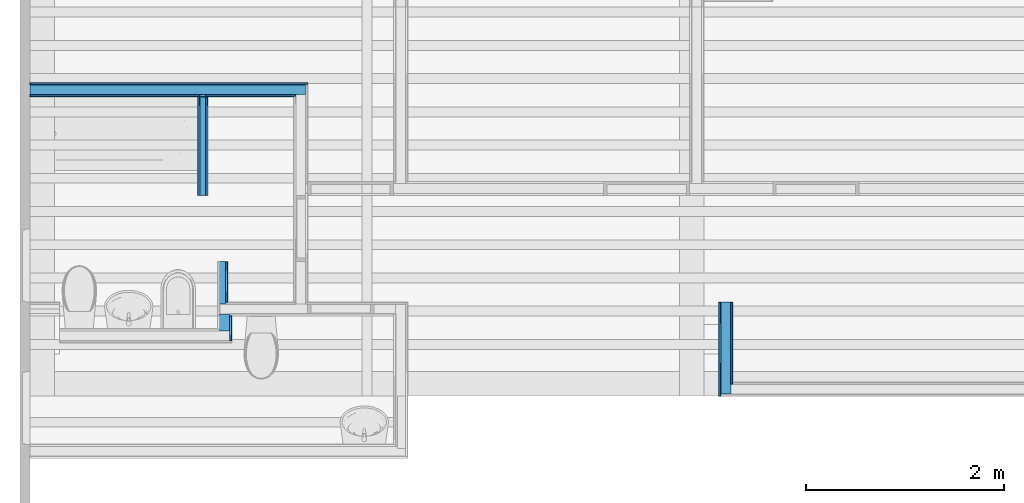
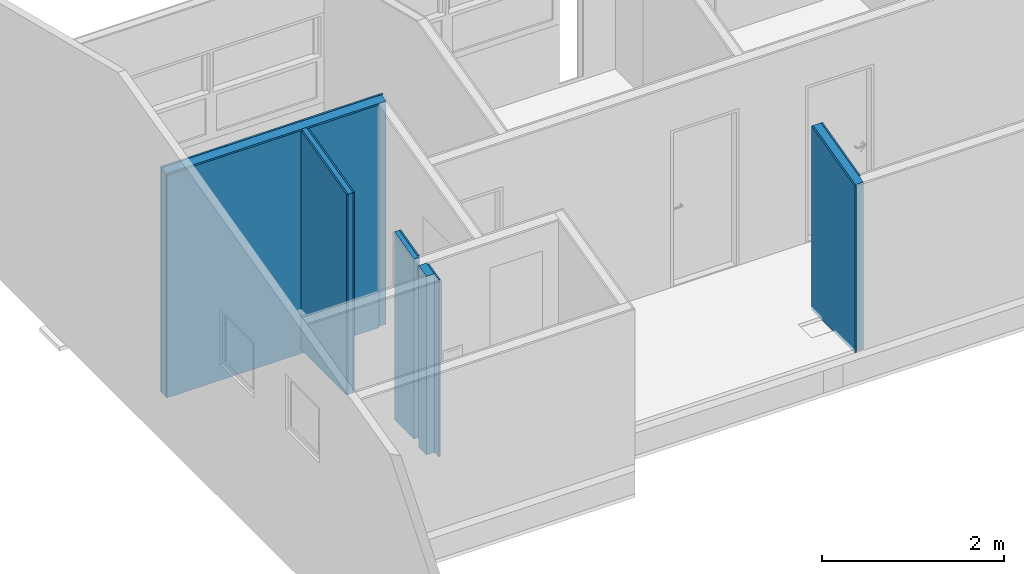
# One storey, part 9 of 13: 13 building element parts, 5 elements without a shape of their own.
"""IFC2X3 building model written with IfcOpenShell, lengths in millimetres."""

from ifc_helpers import new_model, entity, si_unit, converted_unit, derived_unit, money_unit, direction, frame, origin_with_axes, place, context, subcontext, project, spatial, polyline, outline, extrude, boolean, faceted_brep, material, type_object, element, aggregate, save


model = new_model("IFC2X3")

# Units and contexts
model_context = context("Model", 3, precision=0.01, world=origin_with_axes(), true_north=direction((0.293984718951, 0.955810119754)))
body_context = subcontext(model_context, "Body", "Model", "MODEL_VIEW")
ifc_project = project(units=[si_unit("LENGTHUNIT", "METRE", prefix="MILLI"), si_unit("AREAUNIT", "SQUARE_METRE"), si_unit("VOLUMEUNIT", "CUBIC_METRE"), converted_unit("PLANEANGLEUNIT", "DEGREE", entity("IfcPlaneAngleMeasure", 0.0174532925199), si_unit("PLANEANGLEUNIT", "RADIAN"), dimensions=[0, 0, 0, 0, 0, 0, 0]), si_unit("SOLIDANGLEUNIT", "STERADIAN"), money_unit("USD"), converted_unit("TIMEUNIT", "Year", entity("IfcTimeMeasure", 31556926.0), si_unit("TIMEUNIT", "SECOND"), dimensions=[0, 0, 1, 0, 0, 0, 0]), si_unit("MASSUNIT", "GRAM", prefix="KILO"), si_unit("THERMODYNAMICTEMPERATUREUNIT", "DEGREE_CELSIUS"), si_unit("LUMINOUSINTENSITYUNIT", "LUMEN"), si_unit("ENERGYUNIT", "JOULE", prefix="MEGA"), derived_unit("THERMALCONDUCTANCEUNIT", [(si_unit("POWERUNIT", "WATT"), 1), (si_unit("LENGTHUNIT", "METRE"), -1), (si_unit("THERMODYNAMICTEMPERATUREUNIT", "KELVIN"), -1)]), derived_unit("SPECIFICHEATCAPACITYUNIT", [(si_unit("ENERGYUNIT", "JOULE"), 1), (si_unit("MASSUNIT", "GRAM", prefix="KILO"), -1), (si_unit("THERMODYNAMICTEMPERATUREUNIT", "KELVIN"), -1)]), derived_unit("MASSDENSITYUNIT", [(si_unit("MASSUNIT", "GRAM", prefix="KILO"), 1), (si_unit("VOLUMEUNIT", "CUBIC_METRE"), -1)])], contexts=[model_context])

# Site, building, storey
site_placement = place(None, origin_with_axes())
site = spatial("IfcSite", under=ifc_project, at=site_placement, Name="Local", CompositionType="ELEMENT")
building_placement = place(site_placement, origin_with_axes())
building = spatial("IfcBuilding", under=site, at=building_placement, Name="Construção", CompositionType="ELEMENT")
storey_placement = place(building_placement, frame((0.0, 0.0, 3050.0), z_axis=(0.0, 0.0, 1.0), x_axis=(1.0, 0.0, 0.0)))
storey = spatial("IfcBuildingStorey", under=building, at=storey_placement, Name="Primeiro Pavimento", CompositionType="ELEMENT", Elevation=3050.0)

# Wall, building element parts
wall_type_1 = type_object("IfcWallType", Name="Alvenaria Tijolo Maciço com Revestimento 14cm 140", PredefinedType="NOTDEFINED")
wall_1_placement = place(storey_placement, frame((7009.64507267, 9950.63219788, 0.0), z_axis=(0.0, 0.0, 1.0), x_axis=(1.0, 0.0, 0.0)))
wall_1 = element("IfcWall", 1, at=wall_1_placement, inside=storey, type_object=wall_type_1, Name="Parede")
ifc_material_1 = material(Name="Reboco (1)")
building_element_part_1_placement = place(wall_1_placement, origin_with_axes())
building_element_part_1 = element("IfcBuildingElementPart", 2, at=building_element_part_1_placement, material=ifc_material_1, Name="Reboco (1)", context=body_context, shape_type="CSG", body=[
    boolean("DIFFERENCE", boolean("DIFFERENCE", boolean("DIFFERENCE", extrude(outline(polyline([(-100.0, -70.0), (2810.00000001, -70.0), (2810.00000001, -50.0), (-100.0, -50.0), (-100.0, -70.0)])), origin_with_axes(), (0.0, 0.0, 1.0), 3211.87314734), faceted_brep([(-1.89962445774e-06, -50.0, 2990.80041473), (0.0, -50.0, 0.0), (-100.0, -50.0, 0.0), (-100.0, -50.0, 3211.87314734), (2810.00000001, -50.0, 3211.87314734), (2810.00000001, -50.0, 0.0), (2690.00000001, -50.0, 0.0), (2690.00000001, -50.0, 2990.80041473), (1780.0, -49.9999999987, 2990.80041473), (1780.0, -50.0, 50.0), (1720.0, -50.0, 50.0), (1720.0, -49.9999999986, 2990.80041473), (0.0, -70.0, 0.0), (-1.89441262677e-06, -70.0, 2985.81385467), (-100.0, -70.0, 0.0), (-100.0, -70.0, 3211.87314734), (2810.00000001, -70.0, 3211.87314734), (2810.00000001, -70.0, 0.0), (2690.00000001, -70.0, 0.0), (2690.00000001, -70.0, 2985.81385467), (1780.0, -69.9999999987, 2985.81385467), (1780.0, -70.0, 50.0), (1720.0, -70.0, 50.0), (1720.0, -69.9999999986, 2985.81385467)], [[[0, 1, 2, 3, 4, 5, 6, 7, 8, 9, 10, 11]], [[12, 1, 0, 13]], [[1, 12, 14, 2]], [[3, 2, 14, 15]], [[3, 15, 16, 4]], [[16, 17, 5, 4]], [[18, 6, 5, 17]], [[7, 6, 18, 19]], [[19, 20, 8, 7]], [[9, 8, 20, 21]], [[10, 9, 21, 22]], [[11, 10, 22, 23]], [[23, 13, 0, 11]], [[19, 18, 17, 16, 15, 14, 12, 13, 23, 22, 21, 20]]])), faceted_brep([(-1.92568450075e-06, 50.0, 3015.73321501), (0.0, 50.0, 0.0), (-100.0, 50.0, 0.0), (-100.0, 50.0, 3211.87314734), (2810.00000001, 50.0, 3211.87314734), (2810.00000001, 50.0, 0.0), (2790.00000001, 50.0, 0.0), (2790.00000001, 50.0, 3015.73321501), (0.0, -50.0, 0.0), (-1.89962445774e-06, -50.0, 2990.80041473), (-100.0, -50.0, 0.0), (-100.0, -50.0, 3211.87314734), (2810.00000001, -50.0, 3211.87314734), (2810.00000001, -50.0, 0.0), (2790.00000001, -50.0, 0.0), (2790.00000001, -50.0, 2990.80041473)], [[[0, 1, 2, 3, 4, 5, 6, 7]], [[8, 1, 0, 9]], [[1, 8, 10, 2]], [[3, 2, 10, 11]], [[3, 11, 12, 4]], [[12, 13, 5, 4]], [[14, 6, 5, 13]], [[7, 6, 14, 15]], [[15, 9, 0, 7]], [[15, 14, 13, 12, 11, 10, 8, 9]]])), faceted_brep([(2810.00000001, 50.0, 3015.73321501), (2810.00000001, 70.0, 3020.71977507), (2810.00000001, 70.0, 3211.87314734), (2810.00000001, 50.0, 3211.87314734), (-1.93089633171e-06, 70.0, 3020.71977507), (-1.92568450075e-06, 50.0, 3015.73321501), (0.0, 70.0, 0.0), (-100.0, 70.0, 0.0), (-100.0, 70.0, 3211.87314734), (-100.0, 50.0, 3211.87314734), (-100.0, 50.0, 0.0), (0.0, 50.0, 0.0)], [[[0, 1, 2, 3]], [[4, 1, 0, 5]], [[4, 6, 7, 8, 2, 1]], [[8, 9, 3, 2]], [[0, 3, 9, 10, 11, 5]], [[6, 4, 5, 11]], [[6, 11, 10, 7]], [[8, 7, 10, 9]]])),
])
ifc_material_2 = material(Name="Tijolo - Estrutural (1)")
building_element_part_2_placement = place(wall_1_placement, origin_with_axes())
building_element_part_2 = element("IfcBuildingElementPart", 3, at=building_element_part_2_placement, material=ifc_material_2, Name="Tijolo - Estrutural (1)", context=body_context, shape_type="CSG", body=[
    boolean("DIFFERENCE", boolean("DIFFERENCE", boolean("DIFFERENCE", extrude(outline(polyline([(-100.0, -50.0), (2810.00000001, -50.0), (2810.00000001, 50.0), (-100.0, 50.0), (-100.0, -50.0)])), origin_with_axes(), (0.0, 0.0, 1.0), 3211.87314734), faceted_brep([(-1.89962445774e-06, -50.0, 2990.80041473), (0.0, -50.0, 0.0), (-100.0, -50.0, 0.0), (-100.0, -50.0, 3211.87314734), (2810.00000001, -50.0, 3211.87314734), (2810.00000001, -50.0, 0.0), (2690.00000001, -50.0, 0.0), (2690.00000001, -50.0, 2990.80041473), (1780.0, -49.9999999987, 2990.80041473), (1780.0, -50.0, 50.0), (1720.0, -50.0, 50.0), (1720.0, -49.9999999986, 2990.80041473), (0.0, -70.0, 0.0), (-1.89441262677e-06, -70.0, 2985.81385467), (-100.0, -70.0, 0.0), (-100.0, -70.0, 3211.87314734), (2810.00000001, -70.0, 3211.87314734), (2810.00000001, -70.0, 0.0), (2690.00000001, -70.0, 0.0), (2690.00000001, -70.0, 2985.81385467), (1780.0, -69.9999999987, 2985.81385467), (1780.0, -70.0, 50.0), (1720.0, -70.0, 50.0), (1720.0, -69.9999999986, 2985.81385467)], [[[0, 1, 2, 3, 4, 5, 6, 7, 8, 9, 10, 11]], [[12, 1, 0, 13]], [[1, 12, 14, 2]], [[3, 2, 14, 15]], [[3, 15, 16, 4]], [[16, 17, 5, 4]], [[18, 6, 5, 17]], [[7, 6, 18, 19]], [[19, 20, 8, 7]], [[9, 8, 20, 21]], [[10, 9, 21, 22]], [[11, 10, 22, 23]], [[23, 13, 0, 11]], [[19, 18, 17, 16, 15, 14, 12, 13, 23, 22, 21, 20]]])), faceted_brep([(-1.92568450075e-06, 50.0, 3015.73321501), (0.0, 50.0, 0.0), (-100.0, 50.0, 0.0), (-100.0, 50.0, 3211.87314734), (2810.00000001, 50.0, 3211.87314734), (2810.00000001, 50.0, 0.0), (2790.00000001, 50.0, 0.0), (2790.00000001, 50.0, 3015.73321501), (0.0, -50.0, 0.0), (-1.89962445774e-06, -50.0, 2990.80041473), (-100.0, -50.0, 0.0), (-100.0, -50.0, 3211.87314734), (2810.00000001, -50.0, 3211.87314734), (2810.00000001, -50.0, 0.0), (2790.00000001, -50.0, 0.0), (2790.00000001, -50.0, 2990.80041473)], [[[0, 1, 2, 3, 4, 5, 6, 7]], [[8, 1, 0, 9]], [[1, 8, 10, 2]], [[3, 2, 10, 11]], [[3, 11, 12, 4]], [[12, 13, 5, 4]], [[14, 6, 5, 13]], [[7, 6, 14, 15]], [[15, 9, 0, 7]], [[15, 14, 13, 12, 11, 10, 8, 9]]])), faceted_brep([(2810.00000001, 50.0, 3015.73321501), (2810.00000001, 70.0, 3020.71977507), (2810.00000001, 70.0, 3211.87314734), (2810.00000001, 50.0, 3211.87314734), (-1.93089633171e-06, 70.0, 3020.71977507), (-1.92568450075e-06, 50.0, 3015.73321501), (0.0, 70.0, 0.0), (-100.0, 70.0, 0.0), (-100.0, 70.0, 3211.87314734), (-100.0, 50.0, 3211.87314734), (-100.0, 50.0, 0.0), (0.0, 50.0, 0.0)], [[[0, 1, 2, 3]], [[4, 1, 0, 5]], [[4, 6, 7, 8, 2, 1]], [[8, 9, 3, 2]], [[0, 3, 9, 10, 11, 5]], [[6, 4, 5, 11]], [[6, 11, 10, 7]], [[8, 7, 10, 9]]])),
])
building_element_part_3_placement = place(wall_1_placement, origin_with_axes())
building_element_part_3 = element("IfcBuildingElementPart", 4, at=building_element_part_3_placement, material=ifc_material_1, Name="Reboco (1)", context=body_context, shape_type="CSG", body=[
    boolean("DIFFERENCE", boolean("DIFFERENCE", boolean("DIFFERENCE", extrude(outline(polyline([(-100.0, 50.0), (2810.00000001, 50.0), (2810.00000001, 70.0), (-100.0, 70.0), (-100.0, 50.0)])), origin_with_axes(), (0.0, 0.0, 1.0), 3211.87314734), faceted_brep([(-1.89962445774e-06, -50.0, 2990.80041473), (0.0, -50.0, 0.0), (-100.0, -50.0, 0.0), (-100.0, -50.0, 3211.87314734), (2810.00000001, -50.0, 3211.87314734), (2810.00000001, -50.0, 0.0), (2690.00000001, -50.0, 0.0), (2690.00000001, -50.0, 2990.80041473), (1780.0, -49.9999999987, 2990.80041473), (1780.0, -50.0, 50.0), (1720.0, -50.0, 50.0), (1720.0, -49.9999999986, 2990.80041473), (0.0, -70.0, 0.0), (-1.89441262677e-06, -70.0, 2985.81385467), (-100.0, -70.0, 0.0), (-100.0, -70.0, 3211.87314734), (2810.00000001, -70.0, 3211.87314734), (2810.00000001, -70.0, 0.0), (2690.00000001, -70.0, 0.0), (2690.00000001, -70.0, 2985.81385467), (1780.0, -69.9999999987, 2985.81385467), (1780.0, -70.0, 50.0), (1720.0, -70.0, 50.0), (1720.0, -69.9999999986, 2985.81385467)], [[[0, 1, 2, 3, 4, 5, 6, 7, 8, 9, 10, 11]], [[12, 1, 0, 13]], [[1, 12, 14, 2]], [[3, 2, 14, 15]], [[3, 15, 16, 4]], [[16, 17, 5, 4]], [[18, 6, 5, 17]], [[7, 6, 18, 19]], [[19, 20, 8, 7]], [[9, 8, 20, 21]], [[10, 9, 21, 22]], [[11, 10, 22, 23]], [[23, 13, 0, 11]], [[19, 18, 17, 16, 15, 14, 12, 13, 23, 22, 21, 20]]])), faceted_brep([(-1.92568450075e-06, 50.0, 3015.73321501), (0.0, 50.0, 0.0), (-100.0, 50.0, 0.0), (-100.0, 50.0, 3211.87314734), (2810.00000001, 50.0, 3211.87314734), (2810.00000001, 50.0, 0.0), (2790.00000001, 50.0, 0.0), (2790.00000001, 50.0, 3015.73321501), (0.0, -50.0, 0.0), (-1.89962445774e-06, -50.0, 2990.80041473), (-100.0, -50.0, 0.0), (-100.0, -50.0, 3211.87314734), (2810.00000001, -50.0, 3211.87314734), (2810.00000001, -50.0, 0.0), (2790.00000001, -50.0, 0.0), (2790.00000001, -50.0, 2990.80041473)], [[[0, 1, 2, 3, 4, 5, 6, 7]], [[8, 1, 0, 9]], [[1, 8, 10, 2]], [[3, 2, 10, 11]], [[3, 11, 12, 4]], [[12, 13, 5, 4]], [[14, 6, 5, 13]], [[7, 6, 14, 15]], [[15, 9, 0, 7]], [[15, 14, 13, 12, 11, 10, 8, 9]]])), faceted_brep([(2810.00000001, 50.0, 3015.73321501), (2810.00000001, 70.0, 3020.71977507), (2810.00000001, 70.0, 3211.87314734), (2810.00000001, 50.0, 3211.87314734), (-1.93089633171e-06, 70.0, 3020.71977507), (-1.92568450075e-06, 50.0, 3015.73321501), (0.0, 70.0, 0.0), (-100.0, 70.0, 0.0), (-100.0, 70.0, 3211.87314734), (-100.0, 50.0, 3211.87314734), (-100.0, 50.0, 0.0), (0.0, 50.0, 0.0)], [[[0, 1, 2, 3]], [[4, 1, 0, 5]], [[4, 6, 7, 8, 2, 1]], [[8, 9, 3, 2]], [[0, 3, 9, 10, 11, 5]], [[6, 4, 5, 11]], [[6, 11, 10, 7]], [[8, 7, 10, 9]]])),
])
aggregate(wall_1, [building_element_part_1, building_element_part_2, building_element_part_3])

wall_2_placement = place(storey_placement, frame((14049.6450727, 7800.63219788, 0.0), z_axis=(0.0, 0.0, 1.0), x_axis=(0.0, -1.0, 0.0)))
wall_2 = element("IfcWall", 5, at=wall_2_placement, inside=storey, type_object=wall_type_1, Name="Parede")
building_element_part_4_placement = place(wall_2_placement, origin_with_axes())
building_element_part_4 = element("IfcBuildingElementPart", 6, at=building_element_part_4_placement, material=ifc_material_1, Name="Reboco (1)", context=body_context, shape_type="CSG", body=[
    boolean("DIFFERENCE", boolean("DIFFERENCE", boolean("DIFFERENCE", extrude(outline(polyline([(0.0, -70.0), (950.0, -70.0), (950.0, -50.0), (0.0, -50.0), (0.0, -70.0)])), origin_with_axes(), (0.0, 0.0, 1.0), 3211.87314734), faceted_brep([(950.0, -50.0, 2230.35000606), (0.0, -50.0, 2467.21160876), (0.0, -50.0, 3211.87314734), (950.0, -50.0, 3211.87314734), (0.0, -70.0, 2467.21160876), (950.0, -70.0, 2230.35000606), (0.0, -70.0, 3211.87314734), (950.0, -70.0, 3211.87314734)], [[[0, 1, 2, 3]], [[4, 1, 0, 5]], [[1, 4, 6, 2]], [[2, 6, 7, 3]], [[5, 0, 3, 7]], [[4, 5, 7, 6]]])), faceted_brep([(930.0, 50.0, 2235.33656611), (0.0, 50.0, 2467.21160876), (0.0, 50.0, 3211.87314734), (950.0, 50.0, 3211.87314734), (950.0, 50.0, 0.0), (930.0, 50.0, 0.0), (0.0, -50.0, 2467.21160876), (930.0, -50.0, 2235.33656611), (0.0, -50.0, 3211.87314734), (950.0, -50.0, 3211.87314734), (950.0, -50.0, 0.0), (930.0, -50.0, 0.0)], [[[0, 1, 2, 3, 4, 5]], [[6, 1, 0, 7]], [[1, 6, 8, 2]], [[2, 8, 9, 3]], [[9, 10, 4, 3]], [[11, 5, 4, 10]], [[0, 5, 11, 7]], [[7, 11, 10, 9, 8, 6]]])), faceted_brep([(830.0, 70.0, 0.0), (830.0, 70.0, 2260.2693664), (0.0, 70.0, 2467.21160876), (0.0, 70.0, 3211.87314734), (950.0, 70.0, 3211.87314734), (950.0, 70.0, 0.0), (830.0, 50.0, 0.0), (830.0, 50.0, 2260.2693664), (0.0, 50.0, 2467.21160876), (0.0, 50.0, 3211.87314734), (950.0, 50.0, 3211.87314734), (950.0, 50.0, 0.0)], [[[0, 1, 2, 3, 4, 5]], [[1, 0, 6, 7]], [[8, 2, 1, 7]], [[2, 8, 9, 3]], [[3, 9, 10, 4]], [[10, 11, 5, 4]], [[6, 0, 5, 11]], [[7, 6, 11, 10, 9, 8]]])),
])
building_element_part_5_placement = place(wall_2_placement, origin_with_axes())
building_element_part_5 = element("IfcBuildingElementPart", 7, at=building_element_part_5_placement, material=ifc_material_2, Name="Tijolo - Estrutural (1)", context=body_context, shape_type="CSG", body=[
    boolean("DIFFERENCE", boolean("DIFFERENCE", boolean("DIFFERENCE", extrude(outline(polyline([(0.0, -50.0), (950.0, -50.0), (950.0, 50.0), (0.0, 50.0), (0.0, -50.0)])), origin_with_axes(), (0.0, 0.0, 1.0), 3211.87314734), faceted_brep([(950.0, -50.0, 2230.35000606), (0.0, -50.0, 2467.21160876), (0.0, -50.0, 3211.87314734), (950.0, -50.0, 3211.87314734), (0.0, -70.0, 2467.21160876), (950.0, -70.0, 2230.35000606), (0.0, -70.0, 3211.87314734), (950.0, -70.0, 3211.87314734)], [[[0, 1, 2, 3]], [[4, 1, 0, 5]], [[1, 4, 6, 2]], [[2, 6, 7, 3]], [[5, 0, 3, 7]], [[4, 5, 7, 6]]])), faceted_brep([(930.0, 50.0, 2235.33656611), (0.0, 50.0, 2467.21160876), (0.0, 50.0, 3211.87314734), (950.0, 50.0, 3211.87314734), (950.0, 50.0, 0.0), (930.0, 50.0, 0.0), (0.0, -50.0, 2467.21160876), (930.0, -50.0, 2235.33656611), (0.0, -50.0, 3211.87314734), (950.0, -50.0, 3211.87314734), (950.0, -50.0, 0.0), (930.0, -50.0, 0.0)], [[[0, 1, 2, 3, 4, 5]], [[6, 1, 0, 7]], [[1, 6, 8, 2]], [[2, 8, 9, 3]], [[9, 10, 4, 3]], [[11, 5, 4, 10]], [[0, 5, 11, 7]], [[7, 11, 10, 9, 8, 6]]])), faceted_brep([(830.0, 70.0, 0.0), (830.0, 70.0, 2260.2693664), (0.0, 70.0, 2467.21160876), (0.0, 70.0, 3211.87314734), (950.0, 70.0, 3211.87314734), (950.0, 70.0, 0.0), (830.0, 50.0, 0.0), (830.0, 50.0, 2260.2693664), (0.0, 50.0, 2467.21160876), (0.0, 50.0, 3211.87314734), (950.0, 50.0, 3211.87314734), (950.0, 50.0, 0.0)], [[[0, 1, 2, 3, 4, 5]], [[1, 0, 6, 7]], [[8, 2, 1, 7]], [[2, 8, 9, 3]], [[3, 9, 10, 4]], [[10, 11, 5, 4]], [[6, 0, 5, 11]], [[7, 6, 11, 10, 9, 8]]])),
])
building_element_part_6_placement = place(wall_2_placement, origin_with_axes())
building_element_part_6 = element("IfcBuildingElementPart", 8, at=building_element_part_6_placement, material=ifc_material_1, Name="Reboco (1)", context=body_context, shape_type="CSG", body=[
    boolean("DIFFERENCE", boolean("DIFFERENCE", boolean("DIFFERENCE", extrude(outline(polyline([(0.0, 50.0), (950.0, 50.0), (950.0, 70.0), (0.0, 70.0), (0.0, 50.0)])), origin_with_axes(), (0.0, 0.0, 1.0), 3211.87314734), faceted_brep([(950.0, -50.0, 2230.35000606), (0.0, -50.0, 2467.21160876), (0.0, -50.0, 3211.87314734), (950.0, -50.0, 3211.87314734), (0.0, -70.0, 2467.21160876), (950.0, -70.0, 2230.35000606), (0.0, -70.0, 3211.87314734), (950.0, -70.0, 3211.87314734)], [[[0, 1, 2, 3]], [[4, 1, 0, 5]], [[1, 4, 6, 2]], [[2, 6, 7, 3]], [[5, 0, 3, 7]], [[4, 5, 7, 6]]])), faceted_brep([(930.0, 50.0, 2235.33656611), (0.0, 50.0, 2467.21160876), (0.0, 50.0, 3211.87314734), (950.0, 50.0, 3211.87314734), (950.0, 50.0, 0.0), (930.0, 50.0, 0.0), (0.0, -50.0, 2467.21160876), (930.0, -50.0, 2235.33656611), (0.0, -50.0, 3211.87314734), (950.0, -50.0, 3211.87314734), (950.0, -50.0, 0.0), (930.0, -50.0, 0.0)], [[[0, 1, 2, 3, 4, 5]], [[6, 1, 0, 7]], [[1, 6, 8, 2]], [[2, 8, 9, 3]], [[9, 10, 4, 3]], [[11, 5, 4, 10]], [[0, 5, 11, 7]], [[7, 11, 10, 9, 8, 6]]])), faceted_brep([(830.0, 70.0, 0.0), (830.0, 70.0, 2260.2693664), (0.0, 70.0, 2467.21160876), (0.0, 70.0, 3211.87314734), (950.0, 70.0, 3211.87314734), (950.0, 70.0, 0.0), (830.0, 50.0, 0.0), (830.0, 50.0, 2260.2693664), (0.0, 50.0, 2467.21160876), (0.0, 50.0, 3211.87314734), (950.0, 50.0, 3211.87314734), (950.0, 50.0, 0.0)], [[[0, 1, 2, 3, 4, 5]], [[1, 0, 6, 7]], [[8, 2, 1, 7]], [[2, 8, 9, 3]], [[3, 9, 10, 4]], [[10, 11, 5, 4]], [[6, 0, 5, 11]], [[7, 6, 11, 10, 9, 8]]])),
])
aggregate(wall_2, [building_element_part_4, building_element_part_5, building_element_part_6])

wall_type_2 = type_object("IfcWallType", Name="Alvenaria Tijolo Maciço com Revestimento 10cm 100", PredefinedType="NOTDEFINED")
wall_3_placement = place(storey_placement, frame((8709.64507267, 9950.63219788, 50.0), z_axis=(0.0, 0.0, 1.0), x_axis=(0.0, -1.0, 0.0)))
wall_3 = element("IfcWall", 9, at=wall_3_placement, inside=storey, type_object=wall_type_2, Name="Parede")
building_element_part_7_placement = place(wall_3_placement, origin_with_axes())
building_element_part_7 = element("IfcBuildingElementPart", 10, at=building_element_part_7_placement, material=ifc_material_1, Name="Reboco (1)", context=body_context, shape_type="CSG", body=[
    boolean("DIFFERENCE", boolean("DIFFERENCE", boolean("DIFFERENCE", extrude(outline(polyline([(-70.0, 80.0), (1070.0, 80.0), (1070.0, 100.0), (-70.0, 100.0), (-70.0, 80.0)])), origin_with_axes(), (0.0, 0.0, 1.0), 4250.0), faceted_brep([(70.0, 99.9999977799, 2935.81385467), (70.0, 100.0, 0.0), (-70.0, 100.0, 0.0), (-70.0, 100.0, 4250.0), (1070.0, 100.0, 4250.0), (1070.0, 100.0, 2686.48585183), (70.0, 80.0, 2935.81385467), (70.0, 80.0, 0.0), (-70.0, 80.0, 0.0), (-70.0, 80.0, 4250.0), (1070.0, 80.0, 4250.0), (1070.0, 80.0, 2686.48585183)], [[[0, 1, 2, 3, 4, 5]], [[1, 0, 6, 7]], [[1, 7, 8, 2]], [[3, 2, 8, 9]], [[3, 9, 10, 4]], [[11, 5, 4, 10]], [[0, 5, 11, 6]], [[6, 11, 10, 9, 8, 7]]])), faceted_brep([(1070.0, 80.0, 2686.48585183), (50.0, 80.0, 2940.80041473), (50.0, 80.0, 0.0), (-70.0, 80.0, 0.0), (-70.0, 80.0, 4250.0), (1070.0, 80.0, 4250.0), (1070.0, 20.0, 2686.48585183), (50.0, 20.0, 2940.80041473), (50.0, 20.0, 0.0), (-70.0, 20.0, 0.0), (-70.0, 20.0, 4250.0), (1070.0, 20.0, 4250.0)], [[[0, 1, 2, 3, 4, 5]], [[1, 0, 6, 7]], [[2, 1, 7, 8]], [[2, 8, 9, 3]], [[4, 3, 9, 10]], [[4, 10, 11, 5]], [[6, 0, 5, 11]], [[7, 6, 11, 10, 9, 8]]])), faceted_brep([(70.0, 20.0, 2935.81385467), (70.0, 20.0, 0.0), (-70.0, 20.0, 0.0), (-70.0, 20.0, 4250.0), (1070.0, 20.0, 4250.0), (1070.0, 20.0, 2686.48585183), (70.0, 0.0, 2935.81385467), (70.0, 0.0, 0.0), (-70.0, 0.0, 0.0), (-70.0, 0.0, 4250.0), (1070.0, 0.0, 4250.0), (1070.0, 0.0, 2686.48585183)], [[[0, 1, 2, 3, 4, 5]], [[1, 0, 6, 7]], [[1, 7, 8, 2]], [[3, 2, 8, 9]], [[3, 9, 10, 4]], [[11, 5, 4, 10]], [[5, 11, 6, 0]], [[6, 11, 10, 9, 8, 7]]])),
])
building_element_part_8_placement = place(wall_3_placement, origin_with_axes())
building_element_part_8 = element("IfcBuildingElementPart", 11, at=building_element_part_8_placement, material=ifc_material_2, Name="Tijolo - Estrutural (1)", context=body_context, shape_type="CSG", body=[
    boolean("DIFFERENCE", boolean("DIFFERENCE", boolean("DIFFERENCE", extrude(outline(polyline([(-70.0, 20.0), (1070.0, 20.0), (1070.0, 80.0), (-70.0, 80.0), (-70.0, 20.0)])), origin_with_axes(), (0.0, 0.0, 1.0), 4250.0), faceted_brep([(70.0, 99.9999977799, 2935.81385467), (70.0, 100.0, 0.0), (-70.0, 100.0, 0.0), (-70.0, 100.0, 4250.0), (1070.0, 100.0, 4250.0), (1070.0, 100.0, 2686.48585183), (70.0, 80.0, 2935.81385467), (70.0, 80.0, 0.0), (-70.0, 80.0, 0.0), (-70.0, 80.0, 4250.0), (1070.0, 80.0, 4250.0), (1070.0, 80.0, 2686.48585183)], [[[0, 1, 2, 3, 4, 5]], [[1, 0, 6, 7]], [[1, 7, 8, 2]], [[3, 2, 8, 9]], [[3, 9, 10, 4]], [[11, 5, 4, 10]], [[0, 5, 11, 6]], [[6, 11, 10, 9, 8, 7]]])), faceted_brep([(1070.0, 80.0, 2686.48585183), (50.0, 80.0, 2940.80041473), (50.0, 80.0, 0.0), (-70.0, 80.0, 0.0), (-70.0, 80.0, 4250.0), (1070.0, 80.0, 4250.0), (1070.0, 20.0, 2686.48585183), (50.0, 20.0, 2940.80041473), (50.0, 20.0, 0.0), (-70.0, 20.0, 0.0), (-70.0, 20.0, 4250.0), (1070.0, 20.0, 4250.0)], [[[0, 1, 2, 3, 4, 5]], [[1, 0, 6, 7]], [[2, 1, 7, 8]], [[2, 8, 9, 3]], [[4, 3, 9, 10]], [[4, 10, 11, 5]], [[6, 0, 5, 11]], [[7, 6, 11, 10, 9, 8]]])), faceted_brep([(70.0, 20.0, 2935.81385467), (70.0, 20.0, 0.0), (-70.0, 20.0, 0.0), (-70.0, 20.0, 4250.0), (1070.0, 20.0, 4250.0), (1070.0, 20.0, 2686.48585183), (70.0, 0.0, 2935.81385467), (70.0, 0.0, 0.0), (-70.0, 0.0, 0.0), (-70.0, 0.0, 4250.0), (1070.0, 0.0, 4250.0), (1070.0, 0.0, 2686.48585183)], [[[0, 1, 2, 3, 4, 5]], [[1, 0, 6, 7]], [[1, 7, 8, 2]], [[3, 2, 8, 9]], [[3, 9, 10, 4]], [[11, 5, 4, 10]], [[5, 11, 6, 0]], [[6, 11, 10, 9, 8, 7]]])),
])
building_element_part_9_placement = place(wall_3_placement, origin_with_axes())
building_element_part_9 = element("IfcBuildingElementPart", 12, at=building_element_part_9_placement, material=ifc_material_1, Name="Reboco (1)", context=body_context, shape_type="CSG", body=[
    boolean("DIFFERENCE", boolean("DIFFERENCE", boolean("DIFFERENCE", extrude(outline(polyline([(-70.0, 0.0), (1070.0, 0.0), (1070.0, 20.0), (-70.0, 20.0), (-70.0, 0.0)])), origin_with_axes(), (0.0, 0.0, 1.0), 4250.0), faceted_brep([(70.0, 99.9999977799, 2935.81385467), (70.0, 100.0, 0.0), (-70.0, 100.0, 0.0), (-70.0, 100.0, 4250.0), (1070.0, 100.0, 4250.0), (1070.0, 100.0, 2686.48585183), (70.0, 80.0, 2935.81385467), (70.0, 80.0, 0.0), (-70.0, 80.0, 0.0), (-70.0, 80.0, 4250.0), (1070.0, 80.0, 4250.0), (1070.0, 80.0, 2686.48585183)], [[[0, 1, 2, 3, 4, 5]], [[1, 0, 6, 7]], [[1, 7, 8, 2]], [[3, 2, 8, 9]], [[3, 9, 10, 4]], [[11, 5, 4, 10]], [[0, 5, 11, 6]], [[6, 11, 10, 9, 8, 7]]])), faceted_brep([(1070.0, 80.0, 2686.48585183), (50.0, 80.0, 2940.80041473), (50.0, 80.0, 0.0), (-70.0, 80.0, 0.0), (-70.0, 80.0, 4250.0), (1070.0, 80.0, 4250.0), (1070.0, 20.0, 2686.48585183), (50.0, 20.0, 2940.80041473), (50.0, 20.0, 0.0), (-70.0, 20.0, 0.0), (-70.0, 20.0, 4250.0), (1070.0, 20.0, 4250.0)], [[[0, 1, 2, 3, 4, 5]], [[1, 0, 6, 7]], [[2, 1, 7, 8]], [[2, 8, 9, 3]], [[4, 3, 9, 10]], [[4, 10, 11, 5]], [[6, 0, 5, 11]], [[7, 6, 11, 10, 9, 8]]])), faceted_brep([(70.0, 20.0, 2935.81385467), (70.0, 20.0, 0.0), (-70.0, 20.0, 0.0), (-70.0, 20.0, 4250.0), (1070.0, 20.0, 4250.0), (1070.0, 20.0, 2686.48585183), (70.0, 0.0, 2935.81385467), (70.0, 0.0, 0.0), (-70.0, 0.0, 0.0), (-70.0, 0.0, 4250.0), (1070.0, 0.0, 4250.0), (1070.0, 0.0, 2686.48585183)], [[[0, 1, 2, 3, 4, 5]], [[1, 0, 6, 7]], [[1, 7, 8, 2]], [[3, 2, 8, 9]], [[3, 9, 10, 4]], [[11, 5, 4, 10]], [[5, 11, 6, 0]], [[6, 11, 10, 9, 8, 7]]])),
])
aggregate(wall_3, [building_element_part_7, building_element_part_8, building_element_part_9])

wall_4_placement = place(storey_placement, frame((8909.64507267, 7730.63219788, 50.0), z_axis=(0.0, 0.0, 1.0), x_axis=(0.0, 1.0, 0.0)))
wall_4 = element("IfcWall", 13, at=wall_4_placement, inside=storey, type_object=wall_type_2, Name="Parede")
building_element_part_10_placement = place(wall_4_placement, origin_with_axes())
building_element_part_10 = element("IfcBuildingElementPart", 14, at=building_element_part_10_placement, material=ifc_material_1, Name="Reboco (1)", context=body_context, shape_type="CSG", body=[
    boolean("DIFFERENCE", boolean("DIFFERENCE", boolean("DIFFERENCE", extrude(outline(polyline([(-70.0, -100.0), (480.0, -100.0), (480.0, -80.0), (-70.0, -80.0), (-70.0, -100.0)])), origin_with_axes(), (0.0, 0.0, 1.0), 4250.0), faceted_brep([(70.0000000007, -100.0, 0.0), (70.0000000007, -100.0, 2417.21160876), (480.0, -100.0, 2519.43608992), (480.0, -100.0, 4250.0), (-70.0, -100.0, 4250.0), (-70.0, -100.0, 0.0), (70.0000000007, -80.0, 0.0), (70.0000000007, -80.0, 2417.21160876), (480.0, -80.0, 2519.43608992), (480.0, -80.0, 4250.0), (-70.0, -80.0, 4250.0), (-70.0, -80.0, 0.0)], [[[0, 1, 2, 3, 4, 5]], [[1, 0, 6, 7]], [[8, 2, 1, 7]], [[2, 8, 9, 3]], [[10, 4, 3, 9]], [[10, 11, 5, 4]], [[6, 0, 5, 11]], [[7, 6, 11, 10, 9, 8]]])), faceted_brep([(50.0000000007, -80.0, 2412.2250487), (480.0, -80.0, 2519.43608992), (480.0, -80.0, 4250.0), (-70.0, -80.0, 4250.0), (-70.0, -80.0, 0.0), (50.0000000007, -80.0, 0.0), (480.0, -20.0, 2519.43608992), (50.0000000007, -20.0, 2412.2250487), (480.0, -20.0, 4250.0), (-70.0, -20.0, 4250.0), (-70.0, -20.0, 0.0), (50.0000000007, -20.0, 0.0)], [[[0, 1, 2, 3, 4, 5]], [[6, 1, 0, 7]], [[1, 6, 8, 2]], [[9, 3, 2, 8]], [[9, 10, 4, 3]], [[11, 5, 4, 10]], [[0, 5, 11, 7]], [[7, 11, 10, 9, 8, 6]]])), faceted_brep([(-49.9999999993, -20.0, 2387.29224842), (480.0, -20.0, 2519.43608992), (480.0, -20.0, 4250.0), (-70.0, -20.0, 4250.0), (-70.0, -20.0, 0.0), (-49.9999999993, -20.0, 0.0), (480.0, 0.0, 2519.43608992), (-49.9999999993, -4.18596535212e-06, 2387.29224842), (480.0, 0.0, 4250.0), (-70.0, 0.0, 4250.0), (-70.0, 0.0, 0.0), (-49.9999999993, -4.18596535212e-06, 0.0)], [[[0, 1, 2, 3, 4, 5]], [[6, 1, 0, 7]], [[1, 6, 8, 2]], [[9, 3, 2, 8]], [[9, 10, 4, 3]], [[11, 5, 4, 10]], [[0, 5, 11, 7]], [[7, 11, 10, 9, 8, 6]]])),
])
building_element_part_11_placement = place(wall_4_placement, origin_with_axes())
building_element_part_11 = element("IfcBuildingElementPart", 15, at=building_element_part_11_placement, material=ifc_material_2, Name="Tijolo - Estrutural (1)", context=body_context, shape_type="CSG", body=[
    boolean("DIFFERENCE", boolean("DIFFERENCE", boolean("DIFFERENCE", extrude(outline(polyline([(-70.0, -80.0), (480.0, -80.0), (480.0, -20.0), (-70.0, -20.0), (-70.0, -80.0)])), origin_with_axes(), (0.0, 0.0, 1.0), 4250.0), faceted_brep([(70.0000000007, -100.0, 0.0), (70.0000000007, -100.0, 2417.21160876), (480.0, -100.0, 2519.43608992), (480.0, -100.0, 4250.0), (-70.0, -100.0, 4250.0), (-70.0, -100.0, 0.0), (70.0000000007, -80.0, 0.0), (70.0000000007, -80.0, 2417.21160876), (480.0, -80.0, 2519.43608992), (480.0, -80.0, 4250.0), (-70.0, -80.0, 4250.0), (-70.0, -80.0, 0.0)], [[[0, 1, 2, 3, 4, 5]], [[1, 0, 6, 7]], [[8, 2, 1, 7]], [[2, 8, 9, 3]], [[10, 4, 3, 9]], [[10, 11, 5, 4]], [[6, 0, 5, 11]], [[7, 6, 11, 10, 9, 8]]])), faceted_brep([(50.0000000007, -80.0, 2412.2250487), (480.0, -80.0, 2519.43608992), (480.0, -80.0, 4250.0), (-70.0, -80.0, 4250.0), (-70.0, -80.0, 0.0), (50.0000000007, -80.0, 0.0), (480.0, -20.0, 2519.43608992), (50.0000000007, -20.0, 2412.2250487), (480.0, -20.0, 4250.0), (-70.0, -20.0, 4250.0), (-70.0, -20.0, 0.0), (50.0000000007, -20.0, 0.0)], [[[0, 1, 2, 3, 4, 5]], [[6, 1, 0, 7]], [[1, 6, 8, 2]], [[9, 3, 2, 8]], [[9, 10, 4, 3]], [[11, 5, 4, 10]], [[0, 5, 11, 7]], [[7, 11, 10, 9, 8, 6]]])), faceted_brep([(-49.9999999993, -20.0, 2387.29224842), (480.0, -20.0, 2519.43608992), (480.0, -20.0, 4250.0), (-70.0, -20.0, 4250.0), (-70.0, -20.0, 0.0), (-49.9999999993, -20.0, 0.0), (480.0, 0.0, 2519.43608992), (-49.9999999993, -4.18596535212e-06, 2387.29224842), (480.0, 0.0, 4250.0), (-70.0, 0.0, 4250.0), (-70.0, 0.0, 0.0), (-49.9999999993, -4.18596535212e-06, 0.0)], [[[0, 1, 2, 3, 4, 5]], [[6, 1, 0, 7]], [[1, 6, 8, 2]], [[9, 3, 2, 8]], [[9, 10, 4, 3]], [[11, 5, 4, 10]], [[0, 5, 11, 7]], [[7, 11, 10, 9, 8, 6]]])),
])
aggregate(wall_4, [building_element_part_10, building_element_part_11])

wall_5_placement = place(storey_placement, frame((8979.64507267, 7460.63219788, 0.0), z_axis=(0.0, 0.0, 1.0), x_axis=(0.0, 1.0, 0.0)))
wall_5 = element("IfcWall", 16, at=wall_5_placement, inside=storey, type_object=wall_type_1, Name="Parede")
building_element_part_12_placement = place(wall_5_placement, origin_with_axes())
building_element_part_12 = element("IfcBuildingElementPart", 17, at=building_element_part_12_placement, material=ifc_material_1, Name="Reboco (1)", context=body_context, shape_type="CSG", body=[
    boolean("DIFFERENCE", boolean("DIFFERENCE", boolean("DIFFERENCE", extrude(outline(polyline([(-70.0, -70.0), (340.0, -70.0), (340.0, -50.0), (-70.0, -50.0), (-70.0, -70.0)])), origin_with_axes(), (0.0, 0.0, 1.0), 3211.87314734), faceted_brep([(-50.0, -70.0, 0.0), (-50.0, -70.0, 2369.97368765), (200.0, -70.0, 2432.30568836), (200.0, -70.0, 0.0), (340.0, -70.0, 0.0), (340.0, -70.0, 3211.87314734), (-70.0, -70.0, 3211.87314734), (-70.0, -70.0, 0.0), (-50.0, -50.0, 0.0), (-50.0, -50.0, 2369.97368765), (200.0, -50.0, 2432.30568836), (200.0, -50.0, 0.0), (340.0, -50.0, 0.0), (340.0, -50.0, 3211.87314734), (-70.0, -50.0, 3211.87314734), (-70.0, -50.0, 0.0)], [[[0, 1, 2, 3, 4, 5, 6, 7]], [[1, 0, 8, 9]], [[2, 1, 9, 10]], [[3, 2, 10, 11]], [[3, 11, 12, 4]], [[5, 4, 12, 13]], [[14, 6, 5, 13]], [[14, 15, 7, 6]], [[8, 0, 7, 15]], [[9, 8, 15, 14, 13, 12, 11, 10]]])), faceted_brep([(50.0, -50.0, 2394.90648793), (220.0, -50.0, 2437.29224842), (220.0, -50.0, 0.0), (340.0, -50.0, 0.0), (340.0, -50.0, 3211.87314734), (-70.0, -50.0, 3211.87314734), (-70.0, -50.0, 0.0), (50.0, -50.0, 0.0), (50.0, 50.0, 2394.90648793), (220.0, 50.0, 2437.29224842), (220.0, 50.0, 0.0), (340.0, 50.0, 0.0), (340.0, 50.0, 3211.87314734), (-70.0, 50.0, 3211.87314734), (-70.0, 50.0, 0.0), (50.0, 50.0, 0.0)], [[[0, 1, 2, 3, 4, 5, 6, 7]], [[1, 0, 8, 9]], [[2, 1, 9, 10]], [[2, 10, 11, 3]], [[4, 3, 11, 12]], [[13, 5, 4, 12]], [[13, 14, 6, 5]], [[15, 7, 6, 14]], [[0, 7, 15, 8]], [[8, 15, 14, 13, 12, 11, 10, 9]]])), faceted_brep([(70.0, 50.0, 0.0), (70.0, 50.0, 2399.89304799), (200.0, 50.0, 2432.30568836), (200.0, 50.0, 0.0), (340.0, 50.0, 0.0), (340.0, 50.0, 3211.87314734), (-70.0, 50.0, 3211.87314734), (-70.0, 50.0, 0.0), (70.0, 70.0, 0.0), (70.0, 70.0, 2399.89304799), (200.0, 70.0, 2432.30568836), (200.0, 70.0, 0.0), (340.0, 70.0, 0.0), (340.0, 70.0, 3211.87314734), (-70.0, 70.0, 3211.87314734), (-70.0, 70.0, 0.0)], [[[0, 1, 2, 3, 4, 5, 6, 7]], [[1, 0, 8, 9]], [[9, 10, 2, 1]], [[3, 2, 10, 11]], [[3, 11, 12, 4]], [[5, 4, 12, 13]], [[14, 6, 5, 13]], [[14, 15, 7, 6]], [[8, 0, 7, 15]], [[9, 8, 15, 14, 13, 12, 11, 10]]])),
])
building_element_part_13_placement = place(wall_5_placement, origin_with_axes())
building_element_part_13 = element("IfcBuildingElementPart", 18, at=building_element_part_13_placement, material=ifc_material_2, Name="Tijolo - Estrutural (1)", context=body_context, shape_type="CSG", body=[
    boolean("DIFFERENCE", boolean("DIFFERENCE", boolean("DIFFERENCE", extrude(outline(polyline([(-70.0, -50.0), (340.0, -50.0), (340.0, 50.0), (-70.0, 50.0), (-70.0, -50.0)])), origin_with_axes(), (0.0, 0.0, 1.0), 3211.87314734), faceted_brep([(-50.0, -70.0, 0.0), (-50.0, -70.0, 2369.97368765), (200.0, -70.0, 2432.30568836), (200.0, -70.0, 0.0), (340.0, -70.0, 0.0), (340.0, -70.0, 3211.87314734), (-70.0, -70.0, 3211.87314734), (-70.0, -70.0, 0.0), (-50.0, -50.0, 0.0), (-50.0, -50.0, 2369.97368765), (200.0, -50.0, 2432.30568836), (200.0, -50.0, 0.0), (340.0, -50.0, 0.0), (340.0, -50.0, 3211.87314734), (-70.0, -50.0, 3211.87314734), (-70.0, -50.0, 0.0)], [[[0, 1, 2, 3, 4, 5, 6, 7]], [[1, 0, 8, 9]], [[2, 1, 9, 10]], [[3, 2, 10, 11]], [[3, 11, 12, 4]], [[5, 4, 12, 13]], [[14, 6, 5, 13]], [[14, 15, 7, 6]], [[8, 0, 7, 15]], [[9, 8, 15, 14, 13, 12, 11, 10]]])), faceted_brep([(50.0, -50.0, 2394.90648793), (220.0, -50.0, 2437.29224842), (220.0, -50.0, 0.0), (340.0, -50.0, 0.0), (340.0, -50.0, 3211.87314734), (-70.0, -50.0, 3211.87314734), (-70.0, -50.0, 0.0), (50.0, -50.0, 0.0), (50.0, 50.0, 2394.90648793), (220.0, 50.0, 2437.29224842), (220.0, 50.0, 0.0), (340.0, 50.0, 0.0), (340.0, 50.0, 3211.87314734), (-70.0, 50.0, 3211.87314734), (-70.0, 50.0, 0.0), (50.0, 50.0, 0.0)], [[[0, 1, 2, 3, 4, 5, 6, 7]], [[1, 0, 8, 9]], [[2, 1, 9, 10]], [[2, 10, 11, 3]], [[4, 3, 11, 12]], [[13, 5, 4, 12]], [[13, 14, 6, 5]], [[15, 7, 6, 14]], [[0, 7, 15, 8]], [[8, 15, 14, 13, 12, 11, 10, 9]]])), faceted_brep([(70.0, 50.0, 0.0), (70.0, 50.0, 2399.89304799), (200.0, 50.0, 2432.30568836), (200.0, 50.0, 0.0), (340.0, 50.0, 0.0), (340.0, 50.0, 3211.87314734), (-70.0, 50.0, 3211.87314734), (-70.0, 50.0, 0.0), (70.0, 70.0, 0.0), (70.0, 70.0, 2399.89304799), (200.0, 70.0, 2432.30568836), (200.0, 70.0, 0.0), (340.0, 70.0, 0.0), (340.0, 70.0, 3211.87314734), (-70.0, 70.0, 3211.87314734), (-70.0, 70.0, 0.0)], [[[0, 1, 2, 3, 4, 5, 6, 7]], [[1, 0, 8, 9]], [[9, 10, 2, 1]], [[3, 2, 10, 11]], [[3, 11, 12, 4]], [[5, 4, 12, 13]], [[14, 6, 5, 13]], [[14, 15, 7, 6]], [[8, 0, 7, 15]], [[9, 8, 15, 14, 13, 12, 11, 10]]])),
])
aggregate(wall_5, [building_element_part_12, building_element_part_13])

save(model, "model.ifc")
